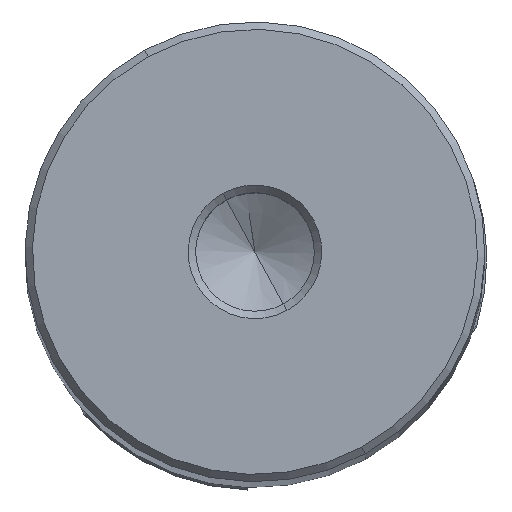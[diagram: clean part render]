
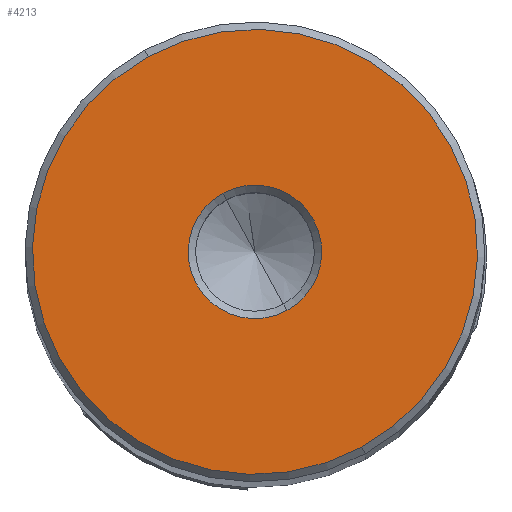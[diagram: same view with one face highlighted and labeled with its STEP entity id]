
A CAD part, top view. The second image highlights one B-rep face of the part: STEP entity #4213.
In plain terms, the highlighted planar face has unit normal (0, 0, 1).
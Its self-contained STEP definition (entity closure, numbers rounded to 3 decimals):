
#4157=AXIS2_PLACEMENT_3D('Circle Axis2P3D',#4155,#4156,$) ;
#4176=AXIS2_PLACEMENT_3D('Circle Axis2P3D',#4174,#4175,$) ;
#4189=AXIS2_PLACEMENT_3D('Plane Axis2P3D',#4186,#4187,#4188) ;
#4197=AXIS2_PLACEMENT_3D('Circle Axis2P3D',#4195,#4196,$) ;
#4206=AXIS2_PLACEMENT_3D('Circle Axis2P3D',#4204,#4205,$) ;
#4152=CARTESIAN_POINT('Vertex',(-7.191,13.164,60.)) ;
#4155=CARTESIAN_POINT('Axis2P3D Location',(0.,0.,60.)) ;
#4159=CARTESIAN_POINT('Vertex',(7.191,-13.164,60.)) ;
#4174=CARTESIAN_POINT('Axis2P3D Location',(0.,0.,60.)) ;
#4186=CARTESIAN_POINT('Axis2P3D Location',(0.,15.,60.)) ;
#4195=CARTESIAN_POINT('Axis2P3D Location',(0.,0.,60.)) ;
#4199=CARTESIAN_POINT('Vertex',(-2.157,3.949,60.)) ;
#4201=CARTESIAN_POINT('Vertex',(2.157,-3.949,60.)) ;
#4204=CARTESIAN_POINT('Axis2P3D Location',(0.,0.,60.)) ;
#4156=DIRECTION('Axis2P3D Direction',(0.,0.,-1.)) ;
#4175=DIRECTION('Axis2P3D Direction',(0.,0.,-1.)) ;
#4187=DIRECTION('Axis2P3D Direction',(-0.,0.,1.)) ;
#4188=DIRECTION('Axis2P3D XDirection',(0.,-1.,0.)) ;
#4196=DIRECTION('Axis2P3D Direction',(-0.,0.,1.)) ;
#4205=DIRECTION('Axis2P3D Direction',(-0.,0.,1.)) ;
#4192=ORIENTED_EDGE('',*,*,#4161,.T.) ;
#4193=ORIENTED_EDGE('',*,*,#4178,.T.) ;
#4210=ORIENTED_EDGE('',*,*,#4203,.F.) ;
#4211=ORIENTED_EDGE('',*,*,#4208,.F.) ;
#4212=FACE_BOUND('',#4209,.T.) ;
#4213=ADVANCED_FACE('NOCUT',(#4194,#4212),#4190,.T.) ;
#4158=CIRCLE('generated circle',#4157,15.) ;
#4177=CIRCLE('generated circle',#4176,15.) ;
#4198=CIRCLE('generated circle',#4197,4.5) ;
#4207=CIRCLE('generated circle',#4206,4.5) ;
#4161=EDGE_CURVE('',#4160,#4153,#4158,.F.) ;
#4178=EDGE_CURVE('',#4153,#4160,#4177,.F.) ;
#4203=EDGE_CURVE('',#4200,#4202,#4198,.T.) ;
#4208=EDGE_CURVE('',#4202,#4200,#4207,.T.) ;
#4191=EDGE_LOOP('',(#4192,#4193)) ;
#4209=EDGE_LOOP('',(#4210,#4211)) ;
#4194=FACE_OUTER_BOUND('',#4191,.T.) ;
#4190=PLANE('',#4189) ;
#4153=VERTEX_POINT('',#4152) ;
#4160=VERTEX_POINT('',#4159) ;
#4200=VERTEX_POINT('',#4199) ;
#4202=VERTEX_POINT('',#4201) ;
